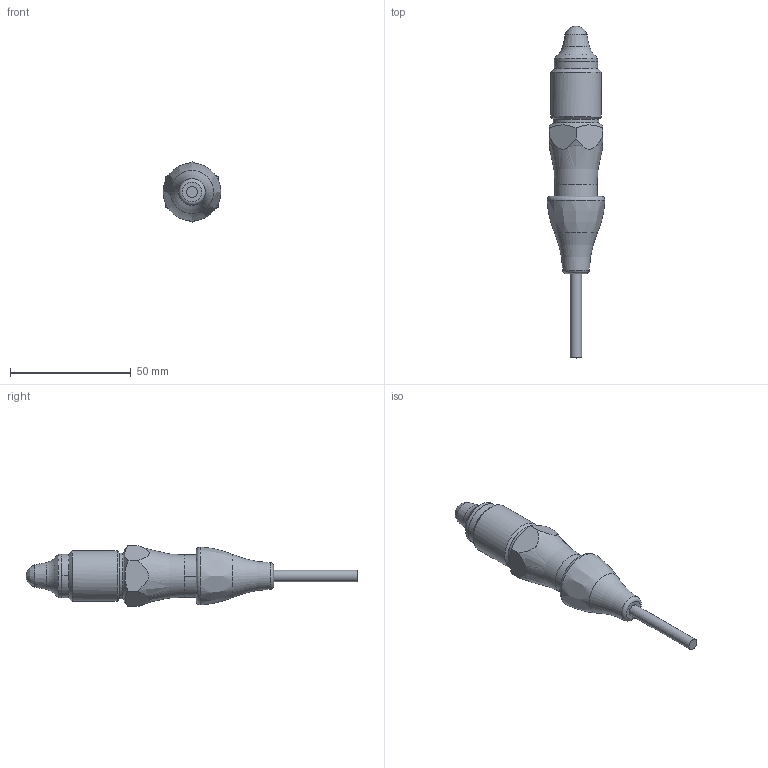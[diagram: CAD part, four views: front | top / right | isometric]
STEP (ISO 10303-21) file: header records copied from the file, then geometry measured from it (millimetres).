
FILE_DESCRIPTION( ( 'Unknown' ), '1' );
FILE_NAME( 'F:/U_Proces/Dokumentation/7000 3D Step filer/7000-/7000028/LBFS 021.stp', 'Unknown', ( 'Unknown' ), ( 'Unknown' ), 'PSStep 13.0', 'Unknown', ' ' );
FILE_SCHEMA( ( 'AUTOMOTIVE_DESIGN { 1 0 10303 214 1 1 1 1 }' ) );
Length unit declared in the file: millimetre
Products named in the file (1): 2103-104
Bounding box: 23.94 x 137.71 x 25.2 mm (x, y, z)
Surface area: 12454.3 mm2 (no closed solid volume)
Topology: 0 solids, 171 shells, 171 faces, 990 edges, 962 vertices
Faces by surface type: plane 112, cylinder 37, torus 9, cone 7, bspline 2, extrusion 2, sphere 2
Full cylindrical faces by diameter (mm): 2 x1, 4.7 x1, 8 x2, 8.3 x1, 18 x1, 19 x1, 20.95 x1
Entity records: 11990 total; most frequent: CARTESIAN_POINT 3662, DIRECTION 1400, ORIENTED_EDGE 942, EDGE_CURVE 942, VERTEX_POINT 942, VECTOR 600, LINE 598, AXIS2_PLACEMENT_3D 400
